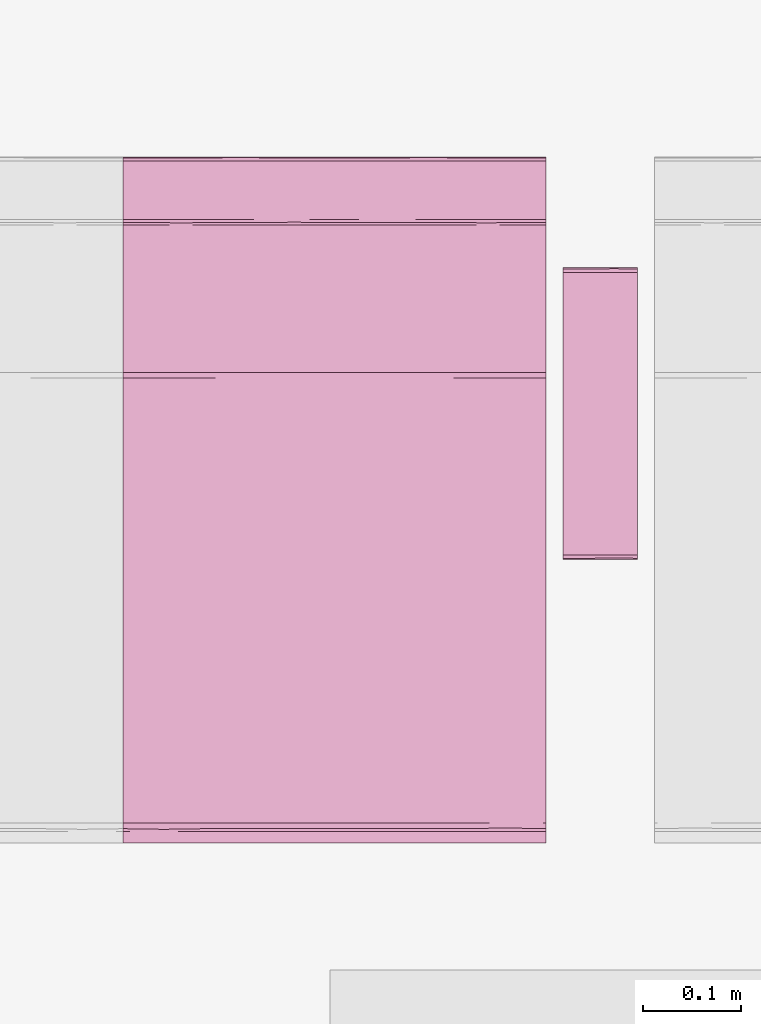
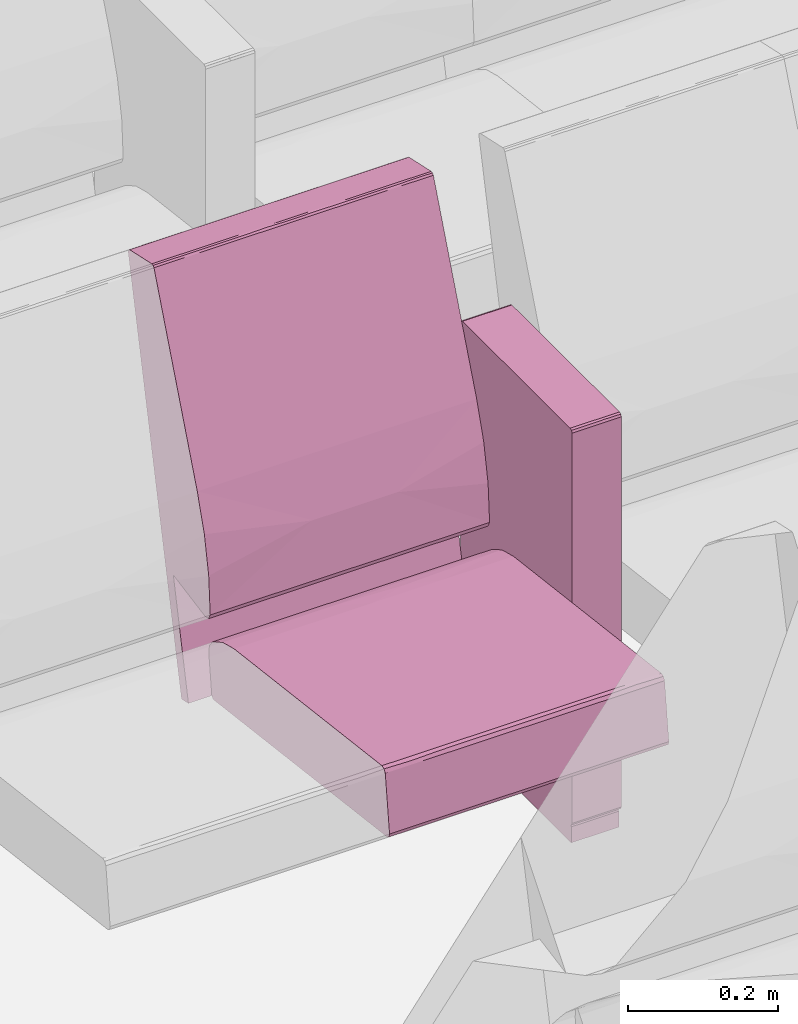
# One storey, part 114 of 155: 1 furnishing.
"""IFC2X3 building model written with IfcOpenShell, lengths in metres."""

from ifc_helpers import new_model, entity, si_unit, converted_unit, derived_unit, direction, frame, origin, place, context, subcontext, project, spatial, faceted_brep, source, transform, mapped, material, material_list, type_object, type_shapes, element, save


model = new_model("IFC2X3")

# Units and contexts
model_context = context("Model", 3, precision=1e-05, world=origin(), true_north=direction((6.12303176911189e-17, 1.0)))
body_context = subcontext(model_context, "Body", "Model", "MODEL_VIEW")
ifc_project = project(units=[si_unit("LENGTHUNIT", "METRE"), si_unit("AREAUNIT", "SQUARE_METRE"), si_unit("VOLUMEUNIT", "CUBIC_METRE"), converted_unit("PLANEANGLEUNIT", "DEGREE", entity("IfcRatioMeasure", 0.0174532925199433), si_unit("PLANEANGLEUNIT", "RADIAN"), dimensions=[0, 0, 0, 0, 0, 0, 0]), si_unit("MASSUNIT", "GRAM", prefix="KILO"), derived_unit("MASSDENSITYUNIT", [(si_unit("MASSUNIT", "GRAM", prefix="KILO"), 1), (si_unit("LENGTHUNIT", "METRE"), -3)]), si_unit("TIMEUNIT", "SECOND"), si_unit("FREQUENCYUNIT", "HERTZ"), si_unit("THERMODYNAMICTEMPERATUREUNIT", "DEGREE_CELSIUS"), derived_unit("THERMALTRANSMITTANCEUNIT", [(si_unit("MASSUNIT", "GRAM", prefix="KILO"), 1), (si_unit("THERMODYNAMICTEMPERATUREUNIT", "KELVIN"), -1), (si_unit("TIMEUNIT", "SECOND"), -3)]), derived_unit("VOLUMETRICFLOWRATEUNIT", [(si_unit("LENGTHUNIT", "METRE"), 3), (si_unit("TIMEUNIT", "SECOND"), -1)]), si_unit("ELECTRICCURRENTUNIT", "AMPERE"), si_unit("ELECTRICVOLTAGEUNIT", "VOLT"), si_unit("POWERUNIT", "WATT"), si_unit("FORCEUNIT", "NEWTON", prefix="KILO"), si_unit("ILLUMINANCEUNIT", "LUX"), si_unit("LUMINOUSFLUXUNIT", "LUMEN"), si_unit("LUMINOUSINTENSITYUNIT", "CANDELA"), derived_unit("USERDEFINED", [(si_unit("MASSUNIT", "GRAM", prefix="KILO"), -1), (si_unit("LENGTHUNIT", "METRE"), -2), (si_unit("TIMEUNIT", "SECOND"), 3), (si_unit("LUMINOUSFLUXUNIT", "LUMEN"), 1)]), derived_unit("LINEARVELOCITYUNIT", [(si_unit("LENGTHUNIT", "METRE"), 1), (si_unit("TIMEUNIT", "SECOND"), -1)]), si_unit("PRESSUREUNIT", "PASCAL"), derived_unit("USERDEFINED", [(si_unit("LENGTHUNIT", "METRE"), -2), (si_unit("MASSUNIT", "GRAM", prefix="KILO"), 1), (si_unit("TIMEUNIT", "SECOND"), -2)])], contexts=[model_context])

# Site, building, storey, space
site_placement = place(None, frame((26.9889013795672, -17.5624287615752, 0.0)))
site = spatial("IfcSite", under=ifc_project, at=site_placement, Name="Default", CompositionType="ELEMENT")
building_placement = place(site_placement, origin())
building = spatial("IfcBuilding", under=site, at=building_placement, Name="C. C. L. Monsenhor Antônio Sampaio", CompositionType="ELEMENT")
storey_placement = place(building_placement, frame((0.0, 0.0, 1.19999999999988)))
storey = spatial("IfcBuildingStorey", under=building, at=storey_placement, Name="Nível 1.2", CompositionType="ELEMENT", Elevation=1.19999999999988)
space_placement = place(storey_placement, origin())
space = spatial("IfcSpace", under=storey, at=space_placement, Name="94", CompositionType="ELEMENT", InteriorOrExteriorSpace="INTERNAL")

# Furnishing
ifc_material_1 = material(Name="V9 - V9 - Ecopelle_672_658")
ifc_material_2 = material(Name="V9 - V9 - RAL_9006_Grigio")
ifc_material_list_1 = material_list([ifc_material_1, ifc_material_2])
ifc_material_list_2 = material_list([ifc_material_1, ifc_material_2])
furniture_type = type_object("IfcFurnitureType", Name="Cadeira auditório", material=ifc_material_list_2)
shared_shape = source(origin(), body_context, "Body", "Brep", [
    faceted_brep([(0.405536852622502, -0.1075, 0.339809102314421), (0.410560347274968, -0.131924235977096, 0.34246450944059), (0.405536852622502, -0.156348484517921, 0.339809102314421), (0.41079981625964, -0.0179166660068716, 0.342749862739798), (0.410597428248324, -0.084060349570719, 0.342506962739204), (0.405536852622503, -0.0537499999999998, 0.339809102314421), (0.410248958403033, -0.173608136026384, 0.342130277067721), (0.405536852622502, -0.215, 0.339809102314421), (0.412515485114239, -0.143333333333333, 0.348529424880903), (0.412515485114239, -0.185674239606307, 0.348529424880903), (0.405536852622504, 0.1075, 0.33980910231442), (0.405536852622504, 0.156348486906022, 0.33980910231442), (0.410560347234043, 0.131924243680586, 0.342464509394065), (0.405536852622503, 0.0, 0.33980910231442), (0.411170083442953, 0.0341365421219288, 0.343251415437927), (0.41251548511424, 0.0, 0.348529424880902), (0.412515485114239, -0.0358333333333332, 0.348529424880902), (0.412515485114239, -0.0716666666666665, 0.348529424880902), (0.41251548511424, 0.143333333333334, 0.348529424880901), (0.41059742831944, 0.0840603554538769, 0.342506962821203), (0.405536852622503, 0.0537500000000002, 0.33980910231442), (0.410248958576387, 0.173608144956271, 0.342130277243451), (0.410799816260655, 0.215, 0.342749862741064), (0.412515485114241, 0.185674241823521, 0.348529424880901), (0.412515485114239, -0.215, 0.348529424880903), (0.410799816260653, -0.215, 0.342749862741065), (0.412515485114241, 0.215, 0.348529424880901), (0.41251548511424, 0.0716666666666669, 0.348529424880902), (0.405536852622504, 0.215, 0.33980910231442), (-0.0557900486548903, -0.215, 0.28268145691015), (-0.0557900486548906, -0.1881249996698, 0.282681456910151), (-0.0557900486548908, -0.161250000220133, 0.282681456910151), (-0.055790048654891, -0.134374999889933, 0.282681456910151), (-0.0557900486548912, -0.107499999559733, 0.282681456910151), (-0.0557900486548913, -0.0806250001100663, 0.282681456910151), (-0.0557900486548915, -0.0537499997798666, 0.282681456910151), (-0.0557900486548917, -0.0268749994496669, 0.282681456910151), (-0.0557900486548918, 0.0, 0.28268145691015), (-0.0557900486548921, 0.0268750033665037, 0.282681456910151), (-0.0557900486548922, 0.0537499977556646, 0.282681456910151), (-0.0557900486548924, 0.0806249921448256, 0.282681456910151), (-0.0557900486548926, 0.107499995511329, 0.282681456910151), (-0.0557900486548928, 0.138065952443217, 0.282681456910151), (-0.055790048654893, 0.168631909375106, 0.282681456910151), (-0.0557900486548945, 0.215, 0.28268145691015), (-0.0594787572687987, -0.0179017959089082, 0.283700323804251), (-0.0613666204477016, 0.0, 0.287029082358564), (-0.0594787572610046, 0.0152829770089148, 0.283700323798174), (-0.0594787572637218, -0.215, 0.283700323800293), (-0.0613666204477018, -0.215, 0.287029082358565), (-0.0613666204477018, -0.191815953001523, 0.287029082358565), (-0.0613666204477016, -0.030565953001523, 0.287029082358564), (-0.0593340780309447, -0.0671874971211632, 0.283591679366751), (-0.0593337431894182, 0.184174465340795, 0.283591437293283), (-0.0594787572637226, 0.215, 0.283700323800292), (-0.0593023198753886, 0.0940625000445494, 0.283568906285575), (-0.0613666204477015, 0.0611319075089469, 0.287029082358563), (-0.0613666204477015, 0.0916978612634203, 0.287029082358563), (-0.0613666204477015, 0.122263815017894, 0.287029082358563), (-0.0597338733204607, -0.147039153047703, 0.283913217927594), (-0.0613666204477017, -0.122263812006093, 0.287029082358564), (-0.059382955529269, -0.118123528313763, 0.28362747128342), (-0.0592501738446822, -0.180223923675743, 0.283532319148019), (-0.0613666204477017, -0.168631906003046, 0.287029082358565), (-0.0588783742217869, -0.0926899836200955, 0.283298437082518), (-0.0613666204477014, 0.168631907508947, 0.287029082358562), (-0.0613666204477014, 0.215, 0.287029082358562), (-0.0592576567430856, 0.123736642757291, 0.283537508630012), (-0.0594787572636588, 0.153348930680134, 0.283700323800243), (-0.0613666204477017, -0.0916978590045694, 0.287029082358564), (-0.0613666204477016, 0.0305659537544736, 0.287029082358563), (-0.059645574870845, 0.045848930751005, 0.283836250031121), (-0.0613666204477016, -0.0611319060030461, 0.287029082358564), (-0.0693403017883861, 0.143333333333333, 0.351419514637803), (-0.069340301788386, 0.215, 0.351419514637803), (-0.0693403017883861, -0.215, 0.351419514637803), (-0.0693403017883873, -0.143333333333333, 0.351419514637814), (-0.069340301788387, -0.0716666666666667, 0.351419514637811), (-0.0693403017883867, 0.0, 0.351419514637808), (-0.0693403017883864, 0.0716666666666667, 0.351419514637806), (-0.0653387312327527, -0.0126787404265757, 0.368680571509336), (-0.0645543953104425, -0.112272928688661, 0.369803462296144), (-0.0597085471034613, 0.0, 0.37476954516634), (-0.0655136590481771, 0.104400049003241, 0.368411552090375), (-0.0681665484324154, 0.0888707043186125, 0.36292533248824), (-0.0694879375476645, -0.0590582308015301, 0.356377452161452), (-0.0695056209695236, 0.125492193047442, 0.356093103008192), (-0.0597085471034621, 0.110316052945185, 0.374769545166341), (-0.0676206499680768, -0.215, 0.364371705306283), (-0.0672851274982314, -0.108066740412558, 0.365148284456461), (-0.0690003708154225, -0.132942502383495, 0.359900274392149), (-0.068624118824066, -0.215, 0.356813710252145), (-0.0686241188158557, 0.214999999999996, 0.356813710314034), (-0.0694502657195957, 0.0358333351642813, 0.356863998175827), (-0.0686999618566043, -0.035833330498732, 0.36116674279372), (-0.067620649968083, 0.214999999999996, 0.364371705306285), (-0.063664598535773, 0.214999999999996, 0.369570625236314), (-0.0597085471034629, 0.214999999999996, 0.374769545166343), (-0.0597085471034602, -0.110316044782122, 0.374769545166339), (-0.0636645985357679, -0.215, 0.36957062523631), (-0.0597085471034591, -0.215, 0.374769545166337), (-0.0018793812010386, -0.215, 0.398686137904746), (-0.0324117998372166, -0.0436847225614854, 0.39063968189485), (-0.0324117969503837, -0.215, 0.390639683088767), (-0.041847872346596, 0.0856576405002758, 0.386239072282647), (-0.00187938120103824, 0.102488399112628, 0.398686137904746), (-0.00187938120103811, 0.215, 0.398686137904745), (-0.0324117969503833, 0.215, 0.390639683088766), (-0.0219042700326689, 0.0570631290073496, 0.394412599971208), (-0.00187938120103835, 0.0, 0.398686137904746), (0.392202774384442, -0.215, 0.447486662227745), (0.392202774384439, -0.156349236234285, 0.447486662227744), (0.392202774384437, -0.107499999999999, 0.447486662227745), (0.392202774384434, -0.0537499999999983, 0.447486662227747), (0.392202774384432, 0.0, 0.447486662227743), (0.392202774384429, 0.0537500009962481, 0.44748666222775), (0.392202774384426, 0.107500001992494, 0.447486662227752), (0.392202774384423, 0.156349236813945, 0.447486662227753), (0.392202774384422, 0.215, 0.447486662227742), (0.397860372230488, 0.0827732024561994, 0.446039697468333), (0.401125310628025, 0.0976984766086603, 0.440530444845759), (0.398104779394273, 0.131924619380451, 0.445856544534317), (0.397373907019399, 0.173462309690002, 0.446363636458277), (0.401125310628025, 0.156349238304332, 0.440530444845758), (0.401125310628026, 0.215000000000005, 0.440530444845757), (0.398104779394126, 0.215000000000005, 0.445856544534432), (0.397860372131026, -0.0827731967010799, 0.446039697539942), (0.398104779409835, -0.131924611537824, 0.445856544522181), (0.398104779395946, -0.0268749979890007, 0.445856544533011), (0.398104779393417, 0.0237489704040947, 0.445856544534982), (0.401125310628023, -0.0488492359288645, 0.440530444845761), (0.401125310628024, 0.0488492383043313, 0.44053044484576), (0.398774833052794, -0.173462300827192, 0.445271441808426), (0.401125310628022, -0.0976984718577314, 0.440530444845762), (0.39810477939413, -0.215, 0.445856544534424), (0.401125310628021, -0.215, 0.440530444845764), (0.401125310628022, -0.156349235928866, 0.440530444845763), (0.401125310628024, 0.0, 0.44053044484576)], [[[0, 1, 2]], [[3, 4, 5]], [[2, 6, 7]], [[8, 9, 6]], [[10, 11, 12]], [[13, 3, 5]], [[3, 14, 15]], [[1, 4, 8]], [[6, 1, 8]], [[4, 3, 16]], [[16, 17, 8, 4]], [[12, 18, 19]], [[4, 1, 0]], [[20, 14, 13]], [[21, 22, 23]], [[15, 16, 3]], [[9, 24, 25]], [[26, 23, 22]], [[7, 6, 25]], [[12, 11, 21]], [[19, 14, 20]], [[4, 0, 5]], [[14, 27, 15]], [[13, 14, 3]], [[19, 18, 27]], [[19, 10, 12]], [[18, 21, 23]], [[10, 19, 20]], [[19, 27, 14]], [[2, 1, 6]], [[21, 11, 28]], [[25, 6, 9]], [[18, 12, 21]], [[22, 21, 28]], [[28, 11, 10, 20, 13, 5, 0, 2, 7, 29, 30, 31, 32, 33, 34, 35, 36, 37, 38, 39, 40, 41, 42, 43, 44]], [[45, 46, 47]], [[48, 49, 50]], [[51, 45, 52]], [[53, 54, 44]], [[55, 56, 57, 58]], [[59, 60, 61]], [[62, 63, 59]], [[34, 64, 52]], [[53, 65, 66]], [[41, 67, 42]], [[37, 36, 35, 45, 47, 38]], [[43, 42, 68]], [[29, 48, 30]], [[59, 31, 62]], [[62, 48, 50]], [[61, 69, 64]], [[65, 53, 68]], [[50, 63, 62]], [[62, 30, 48]], [[55, 58, 67]], [[32, 31, 59]], [[46, 70, 47]], [[65, 68, 58]], [[55, 40, 71]], [[70, 56, 71]], [[61, 33, 32]], [[59, 63, 60]], [[39, 38, 71, 40]], [[47, 71, 38]], [[51, 46, 45]], [[70, 71, 47]], [[71, 56, 55]], [[40, 55, 41]], [[67, 68, 42]], [[43, 68, 53]], [[43, 53, 44]], [[66, 54, 53]], [[68, 67, 58]], [[55, 67, 41]], [[72, 51, 52, 69]], [[62, 31, 30]], [[59, 61, 32]], [[35, 52, 45]], [[64, 34, 33]], [[34, 52, 35]], [[61, 60, 69]], [[52, 64, 69]], [[61, 64, 33]], [[73, 74, 66, 65, 58, 57, 56, 70, 46, 51, 72, 69, 60, 63, 50, 49, 75, 76, 77, 78, 79]], [[80, 81, 82]], [[83, 84, 80]], [[85, 78, 77, 76]], [[73, 79, 86]], [[80, 82, 83]], [[87, 83, 82]], [[88, 89, 90]], [[76, 75, 91]], [[92, 74, 73]], [[91, 90, 85]], [[80, 89, 81]], [[84, 93, 94]], [[84, 86, 93]], [[93, 78, 85]], [[73, 86, 92]], [[94, 93, 85]], [[95, 92, 84]], [[78, 93, 79]], [[80, 84, 94]], [[83, 96, 95]], [[94, 85, 90]], [[87, 97, 96]], [[98, 99, 100]], [[91, 85, 76]], [[94, 90, 89]], [[90, 91, 88]], [[89, 80, 94]], [[89, 99, 81]], [[89, 88, 99]], [[82, 81, 98]], [[81, 99, 98]], [[92, 86, 84]], [[93, 86, 79]], [[84, 83, 95]], [[96, 83, 87]], [[101, 102, 103]], [[104, 97, 87, 82]], [[105, 106, 107]], [[107, 108, 105]], [[109, 102, 101]], [[82, 102, 104]], [[102, 108, 104]], [[103, 102, 100]], [[97, 104, 107]], [[104, 108, 107]], [[102, 82, 98, 100]], [[105, 108, 109]], [[108, 102, 109]], [[109, 101, 110, 111, 112, 113, 114, 115, 116, 117, 118, 106, 105]], [[119, 120, 121]], [[122, 123, 124]], [[122, 125, 118]], [[126, 113, 112]], [[117, 121, 122]], [[121, 117, 116]], [[112, 111, 127]], [[113, 128, 129, 115, 114]], [[126, 130, 128]], [[129, 131, 119]], [[111, 132, 127]], [[132, 111, 110]], [[133, 126, 127]], [[123, 122, 121]], [[132, 134, 135]], [[127, 132, 136]], [[123, 121, 120]], [[127, 136, 133]], [[129, 128, 130, 137, 131]], [[112, 127, 126]], [[126, 133, 130]], [[119, 121, 116]], [[113, 126, 128]], [[119, 115, 129]], [[119, 116, 115]], [[120, 119, 131]], [[117, 122, 118]], [[124, 125, 122]], [[136, 132, 135]], [[110, 134, 132]], [[137, 130, 133, 136, 135, 24, 9, 8, 17, 16, 15, 27, 18, 23, 26, 124, 123, 120, 131]], [[44, 54, 66, 74, 92, 95, 96, 97, 107, 106, 118, 125, 124, 26, 22, 28]], [[75, 49, 48, 29, 7, 25, 24, 135, 134, 110, 101, 103, 100, 99, 88, 91]]]),
    faceted_brep([(0.119812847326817, 0.27, 0.674900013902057), (0.12334838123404, 0.259944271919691, 0.6734355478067), (0.123144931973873, 0.283972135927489, 0.673627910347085), (0.124812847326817, 0.27, 0.669900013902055), (0.119812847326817, 0.232, 0.674900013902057), (0.12334838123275, 0.232, 0.673435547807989), (0.124812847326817, 0.308, 0.669900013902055), (0.119812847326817, 0.308, 0.674900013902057), (0.124812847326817, 0.249888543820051, 0.669900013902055), (0.124812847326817, 0.232, 0.669900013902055), (0.12334838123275, 0.308, 0.673435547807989), (0.124812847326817, 0.232, 0.0349999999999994), (0.124812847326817, 0.27, 0.035), (0.124812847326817, 0.308, 0.035), (0.12334838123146, 0.25994427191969, 0.0314644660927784), (0.123540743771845, 0.283972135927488, 0.0316679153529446), (0.119812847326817, 0.27, 0.0300000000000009), (0.12334838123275, 0.232, 0.0314644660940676), (0.119812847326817, 0.308, 0.0300000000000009), (0.119812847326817, 0.249888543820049, 0.030000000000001), (0.119812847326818, 0.232, 0.030000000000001), (0.123348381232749, 0.308, 0.0314644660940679), (-0.167179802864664, 0.27, 0.0300000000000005), (-0.167179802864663, 0.308, 0.0300000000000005), (-0.167179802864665, 0.232, 0.0300000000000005), (-0.170715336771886, 0.25994427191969, 0.0314644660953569), (-0.17051188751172, 0.283972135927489, 0.0312721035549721), (-0.172179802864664, 0.27, 0.0350000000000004), (-0.170715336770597, 0.232, 0.0314644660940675), (-0.172179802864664, 0.308, 0.0350000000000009), (-0.172179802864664, 0.24988854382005, 0.0350000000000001), (-0.172179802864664, 0.232, 0.0349999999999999), (-0.170715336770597, 0.308, 0.0314644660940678), (-0.172179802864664, 0.308, 0.669900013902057), (-0.172179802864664, 0.232, 0.669900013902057), (-0.172179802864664, 0.27, 0.669900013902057), (-0.170715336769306, 0.259944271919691, 0.673435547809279), (-0.170907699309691, 0.283972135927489, 0.673232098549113), (-0.167179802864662, 0.27, 0.674900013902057), (-0.170715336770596, 0.232, 0.67343554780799), (-0.167179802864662, 0.308, 0.674900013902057), (-0.167179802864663, 0.249888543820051, 0.674900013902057), (-0.167179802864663, 0.232, 0.674900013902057), (-0.170715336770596, 0.308, 0.67343554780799)], [[[0, 1, 2]], [[3, 2, 1]], [[0, 4, 5, 1]], [[2, 3, 6]], [[0, 2, 7]], [[8, 3, 1, 5, 9]], [[7, 2, 10]], [[6, 10, 2]], [[9, 11, 12, 13, 6, 3, 8]], [[12, 14, 15]], [[16, 15, 14]], [[12, 11, 17, 14]], [[15, 16, 18]], [[12, 15, 13]], [[19, 16, 14, 17, 20]], [[13, 15, 21]], [[18, 21, 15]], [[22, 23, 18, 16, 19, 20, 24]], [[22, 25, 26]], [[27, 26, 25]], [[22, 24, 28, 25]], [[26, 27, 29]], [[22, 26, 23]], [[30, 27, 25, 28, 31]], [[23, 26, 32]], [[29, 32, 26]], [[33, 29, 27, 30, 31, 34, 35]], [[35, 36, 37]], [[38, 37, 36]], [[35, 34, 39, 36]], [[37, 38, 40]], [[35, 37, 33]], [[41, 38, 36, 39, 42]], [[33, 37, 43]], [[40, 43, 37]], [[0, 7, 40, 38, 41, 42, 4]], [[42, 39, 34, 31, 28, 24, 20, 17, 11, 9, 5, 4]], [[23, 32, 29, 33, 43, 40, 7, 10, 6, 13, 21, 18]]]),
    faceted_brep([(-0.0655618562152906, -0.215, 0.415143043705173), (-0.0744051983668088, -0.0524423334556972, 0.506888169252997), (-0.0695672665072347, -0.215, 0.476508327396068), (-0.0655618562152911, 0.0, 0.415143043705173), (-0.0744051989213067, 0.0780075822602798, 0.506888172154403), (-0.0655618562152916, 0.1075, 0.415143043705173), (-0.0655618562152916, 0.215, 0.415143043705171), (-0.0655618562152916, -0.1075, 0.415143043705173), (-0.0695672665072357, 0.215, 0.476508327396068), (-0.0811110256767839, 0.215, 0.536911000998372), (-0.0811110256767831, -0.215, 0.536911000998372), (-0.100016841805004, 0.0, 0.595428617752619), (-0.100016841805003, -0.215, 0.595428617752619), (-0.100016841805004, 0.215, 0.595428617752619), (-0.0792851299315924, -0.0716666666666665, 0.404772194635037), (-0.0792851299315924, 0.0, 0.404772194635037), (-0.0698317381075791, -0.0358333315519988, 0.406528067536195), (-0.0698317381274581, 0.215, 0.406528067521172), (-0.0792851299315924, 0.143333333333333, 0.404772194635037), (-0.0792851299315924, 0.215, 0.404772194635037), (-0.0698317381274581, -0.215, 0.406528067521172), (-0.0792851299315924, -0.215, 0.404772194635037), (-0.0792851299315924, -0.143333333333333, 0.404772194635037), (-0.0694171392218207, -0.140338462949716, 0.406857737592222), (-0.0708115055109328, 0.0356393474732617, 0.405868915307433), (-0.0703502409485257, 0.107500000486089, 0.406159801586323), (-0.0792851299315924, 0.0716666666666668, 0.404772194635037), (-0.163837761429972, 0.215, 0.420611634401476), (-0.163837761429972, -0.215, 0.420611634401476), (-0.123612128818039, -0.215, 0.235917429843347), (-0.123612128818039, 0.215, 0.235917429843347), (-0.142059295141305, -0.215, 0.231899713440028), (-0.142059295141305, 0.215, 0.231899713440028), (-0.235388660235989, -0.215, 0.652619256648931), (-0.235388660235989, 0.215, 0.652619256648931), (-0.28428001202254, 0.0, 0.873004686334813), (-0.284280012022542, 0.0268749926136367, 0.873004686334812), (-0.284280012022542, 0.0537499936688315, 0.873004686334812), (-0.284280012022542, 0.0806249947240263, 0.873004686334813), (-0.284280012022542, 0.107499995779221, 0.873004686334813), (-0.284280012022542, 0.134374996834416, 0.873004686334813), (-0.284280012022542, 0.161249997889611, 0.873004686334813), (-0.284280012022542, 0.191295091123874, 0.873004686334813), (-0.28428001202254, 0.215, 0.873004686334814), (-0.284280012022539, -0.215, 0.873004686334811), (-0.28428001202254, -0.191295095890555, 0.873004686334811), (-0.284280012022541, -0.161249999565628, 0.873004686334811), (-0.284280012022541, -0.134374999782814, 0.873004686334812), (-0.284280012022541, -0.1075, 0.873004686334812), (-0.284280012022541, -0.0806250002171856, 0.873004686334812), (-0.284280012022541, -0.0537500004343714, 0.873004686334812), (-0.284280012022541, -0.0268749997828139, 0.873004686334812), (-0.283504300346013, -0.0569644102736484, 0.877068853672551), (-0.283746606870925, -0.0872244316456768, 0.876674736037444), (-0.283641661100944, 0.12093750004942, 0.876855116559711), (-0.283567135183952, 0.15546176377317, 0.876973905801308), (-0.28330409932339, -0.185293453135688, 0.877344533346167), (-0.283567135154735, -0.155461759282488, 0.876973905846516), (-0.280514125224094, 0.0, 0.879190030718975), (-0.280514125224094, 0.0358333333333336, 0.879190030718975), (-0.283641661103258, 0.0136463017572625, 0.876855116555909), (-0.283641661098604, -0.0179166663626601, 0.876855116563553), (-0.280514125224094, -0.0358333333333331, 0.879190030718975), (-0.280514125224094, 0.1075, 0.879190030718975), (-0.280514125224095, 0.143333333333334, 0.879190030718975), (-0.283746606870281, 0.0872244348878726, 0.876674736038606), (-0.280514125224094, 0.071666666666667, 0.879190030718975), (-0.280514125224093, -0.1075, 0.879190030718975), (-0.280514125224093, -0.0716666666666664, 0.879190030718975), (-0.280514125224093, -0.143333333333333, 0.879190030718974), (-0.283641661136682, -0.120937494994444, 0.876855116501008), (-0.283641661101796, -0.215, 0.876855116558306), (-0.283641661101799, 0.215, 0.876855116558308), (-0.280514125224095, 0.167590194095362, 0.879190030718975), (-0.283304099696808, 0.18529345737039, 0.877344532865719), (-0.280514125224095, 0.215, 0.879190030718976), (-0.280514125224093, -0.167590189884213, 0.879190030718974), (-0.280514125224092, -0.215, 0.879190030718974), (-0.283504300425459, 0.0569644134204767, 0.8770688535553), (-0.221112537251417, -0.215, 0.892176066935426), (-0.221112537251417, -0.19181594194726, 0.892176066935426), (-0.221112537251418, -0.16124999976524, 0.892176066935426), (-0.221112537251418, -0.13437499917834, 0.892176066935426), (-0.221112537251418, -0.10749999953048, 0.892176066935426), (-0.221112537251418, -0.08062499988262, 0.892176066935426), (-0.221112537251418, -0.0537500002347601, 0.892176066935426), (-0.221112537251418, -0.0268750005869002, 0.892176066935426), (-0.221112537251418, 0.0, 0.892176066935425), (-0.221112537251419, 0.0268750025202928, 0.892176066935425), (-0.221112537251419, 0.053749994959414, 0.892176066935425), (-0.221112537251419, 0.0806249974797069, 0.892176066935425), (-0.221112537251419, 0.1075, 0.892176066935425), (-0.221112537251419, 0.134375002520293, 0.892176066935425), (-0.221112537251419, 0.161250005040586, 0.892176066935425), (-0.221112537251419, 0.191815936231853, 0.892176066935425), (-0.221112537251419, 0.215, 0.892176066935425), (-0.217722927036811, -0.0162353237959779, 0.891719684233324), (-0.215419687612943, -0.0358333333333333, 0.889191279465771), (-0.215419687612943, 0.0, 0.889191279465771), (-0.217722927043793, 0.0134375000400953, 0.891719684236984), (-0.217722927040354, 0.120937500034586, 0.89171968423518), (-0.217722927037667, 0.0912646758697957, 0.891719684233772), (-0.215419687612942, 0.0716666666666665, 0.88919127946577), (-0.215419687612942, 0.1075, 0.88919127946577), (-0.215419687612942, 0.143333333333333, 0.88919127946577), (-0.217722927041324, 0.215, 0.891719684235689), (-0.217722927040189, 0.182482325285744, 0.891719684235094), (-0.215419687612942, 0.168631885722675, 0.889191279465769), (-0.215419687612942, 0.191815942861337, 0.889191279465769), (-0.215419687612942, 0.215, 0.889191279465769), (-0.217722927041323, -0.215, 0.89171968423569), (-0.215419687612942, -0.215, 0.889191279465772), (-0.215419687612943, -0.191815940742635, 0.889191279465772), (-0.217722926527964, -0.190103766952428, 0.891719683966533), (-0.2179983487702, 0.039082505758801, 0.891853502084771), (-0.217816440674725, 0.0647800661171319, 0.891767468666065), (-0.217558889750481, 0.155982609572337, 0.891629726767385), (-0.217722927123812, -0.120937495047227, 0.891719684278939), (-0.217558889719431, -0.15598260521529, 0.891629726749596), (-0.215419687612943, -0.143333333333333, 0.889191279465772), (-0.215419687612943, -0.16863188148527, 0.889191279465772), (-0.215419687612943, -0.0716666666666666, 0.889191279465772), (-0.217816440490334, -0.0647800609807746, 0.891767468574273), (-0.217722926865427, -0.0912646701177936, 0.891719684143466), (-0.215419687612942, 0.0358333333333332, 0.889191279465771), (-0.215419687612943, -0.1075, 0.889191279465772), (-0.218257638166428, -0.0404491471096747, 0.891961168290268)], [[[0, 1, 2]], [[3, 4, 1]], [[4, 3, 5, 6]], [[1, 0, 7, 3]], [[8, 4, 6]], [[9, 4, 8]], [[1, 10, 2]], [[1, 11, 12]], [[9, 13, 4]], [[13, 11, 4]], [[10, 1, 12]], [[11, 1, 4]], [[14, 15, 16]], [[17, 18, 19]], [[20, 21, 22]], [[20, 23, 0]], [[3, 7, 16]], [[15, 24, 16]], [[24, 25, 5]], [[22, 23, 20]], [[7, 23, 16]], [[6, 5, 17]], [[16, 24, 3]], [[16, 23, 14]], [[23, 22, 14]], [[18, 25, 26]], [[18, 17, 25]], [[26, 24, 15]], [[7, 0, 23]], [[5, 25, 17]], [[25, 24, 26]], [[3, 24, 5]], [[27, 19, 18, 26, 15, 14, 22, 21, 28]], [[27, 28, 29, 30]], [[31, 32, 30, 29]], [[33, 34, 32, 31]], [[35, 36, 37, 38, 39, 40, 41, 42, 43, 34, 33, 44, 45, 46, 47, 48, 49, 50, 51]], [[52, 49, 53]], [[54, 55, 40]], [[46, 56, 57]], [[58, 59, 60, 61, 62]], [[54, 63, 64]], [[65, 66, 63]], [[67, 68, 53]], [[57, 69, 70]], [[45, 56, 46]], [[39, 54, 40]], [[45, 44, 71]], [[72, 43, 42]], [[35, 51, 61, 60, 36]], [[55, 73, 74]], [[39, 65, 54]], [[74, 73, 75]], [[67, 53, 70]], [[74, 42, 41]], [[64, 73, 55]], [[56, 76, 57]], [[74, 72, 42]], [[76, 56, 77]], [[56, 71, 77]], [[57, 76, 69]], [[48, 70, 53]], [[70, 48, 47]], [[60, 78, 36]], [[63, 54, 65]], [[71, 56, 45]], [[41, 55, 74]], [[72, 74, 75]], [[57, 70, 47]], [[47, 46, 57]], [[69, 67, 70]], [[50, 49, 52, 51]], [[52, 62, 61]], [[61, 51, 52]], [[55, 41, 40]], [[55, 54, 64]], [[66, 65, 78]], [[65, 38, 78]], [[52, 53, 68]], [[37, 36, 78, 38]], [[78, 59, 66]], [[59, 78, 60]], [[49, 48, 53]], [[65, 39, 38]], [[52, 68, 62]], [[79, 80, 81, 82, 83, 84, 85, 86, 87, 88, 89, 90, 91, 92, 93, 94, 95, 75, 73, 64, 63, 66, 59, 58, 62, 68, 67, 69, 76, 77]], [[96, 97, 98, 99]], [[100, 101, 102, 103, 104]], [[105, 106, 107, 108, 109]], [[110, 111, 112]], [[80, 110, 113]], [[89, 114, 115]], [[92, 116, 93]], [[94, 93, 106, 105, 95]], [[80, 79, 110]], [[92, 91, 90, 101, 100]], [[99, 88, 87, 86, 96]], [[104, 107, 116]], [[117, 83, 82]], [[117, 118, 119]], [[112, 120, 113]], [[118, 120, 119]], [[118, 81, 113]], [[116, 107, 106]], [[101, 90, 115]], [[121, 122, 123]], [[104, 116, 100]], [[110, 112, 113]], [[114, 99, 124]], [[92, 100, 116]], [[117, 125, 123]], [[82, 81, 118]], [[118, 117, 82]], [[83, 117, 123]], [[125, 117, 119]], [[102, 101, 115]], [[84, 83, 123]], [[123, 125, 121]], [[85, 84, 122]], [[89, 115, 90]], [[96, 86, 126]], [[124, 102, 115]], [[88, 99, 114]], [[99, 98, 124]], [[122, 121, 97]], [[126, 122, 97]], [[88, 114, 89]], [[115, 114, 124]], [[123, 122, 84]], [[126, 85, 122]], [[85, 126, 86]], [[96, 126, 97]], [[116, 106, 93]], [[80, 113, 81]], [[118, 113, 120]], [[12, 11, 13, 109, 108, 107, 104, 103, 102, 124, 98, 97, 121, 125, 119, 120, 112, 111]], [[30, 32, 34, 43, 72, 75, 95, 105, 109, 13, 9, 8, 6, 17, 19, 27]], [[77, 71, 44, 33, 31, 29, 28, 21, 20, 0, 2, 10, 12, 111, 110, 79]]]),
    faceted_brep([(0.120312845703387, 0.2335, 0.0), (0.120312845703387, 0.3065, 0.0), (0.120312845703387, 0.3065, 0.0260000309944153), (0.120312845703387, 0.27, 0.0260000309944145), (0.120312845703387, 0.249500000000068, 0.0260000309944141), (0.120312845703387, 0.2335, 0.0260000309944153), (-0.167687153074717, 0.2335, 0.0), (-0.167687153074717, 0.3065, 0.0), (-0.167687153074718, 0.3065, 0.0260000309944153), (-0.167687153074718, 0.2335, 0.0260000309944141), (-0.167687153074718, 0.27, 0.0260000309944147), (-0.163702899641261, 0.233500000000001, 0.0300000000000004), (-0.166521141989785, 0.257382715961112, 0.0288228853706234), (-0.166521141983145, 0.233500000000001, 0.0288228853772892), (-0.166521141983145, 0.3065, 0.0288228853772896), (-0.16652114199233, 0.279986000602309, 0.0288228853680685), (-0.163702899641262, 0.3065, 0.0300000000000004), (-0.163702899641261, 0.27, 0.0300000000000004), (0.116297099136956, 0.2335, 0.0300000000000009), (0.116297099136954, 0.270000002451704, 0.0300000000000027), (0.116297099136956, 0.3065, 0.0300000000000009), (0.119033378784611, 0.283124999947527, 0.0289323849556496), (0.119135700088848, 0.259750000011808, 0.0288340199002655), (0.1191357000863, 0.2335, 0.0288340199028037), (0.119135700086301, 0.3065, 0.0288340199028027)], [[[0, 1, 2, 3, 4, 5]], [[6, 7, 1, 0]], [[8, 7, 6, 9, 10]], [[11, 12, 13]], [[14, 15, 16]], [[17, 16, 15, 12, 11]], [[13, 12, 10, 9]], [[8, 15, 14]], [[12, 15, 8, 10]], [[16, 17, 11, 18, 19, 20]], [[3, 2, 21]], [[22, 19, 18, 23]], [[22, 23, 5, 4, 3]], [[20, 21, 24]], [[22, 3, 21]], [[19, 21, 20]], [[2, 24, 21]], [[19, 22, 21]], [[20, 24, 2, 1, 7, 8, 14, 16]], [[18, 11, 13, 9, 6, 0, 5, 23]]]),
])
type_shapes(furniture_type, [shared_shape])
furnishing_placement = place(space_placement, frame((-8.60594929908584, -12.3788058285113, 0.0), z_axis=(0.0, 0.0, 1.0), x_axis=(0.0, -1.0, 0.0)))
element("IfcFurnishingElement", 1, at=furnishing_placement, inside=space, type_object=furniture_type, material=ifc_material_list_1, Name="cadeira auditório pcd:Cadeira auditório", ObjectType="Cadeira auditório", context=body_context, shape_type="MappedRepresentation", body=[
    mapped(shared_shape, transform((0.0, 0.0, 0.0), scale=1.0)),
])

save(model, "model.ifc")
